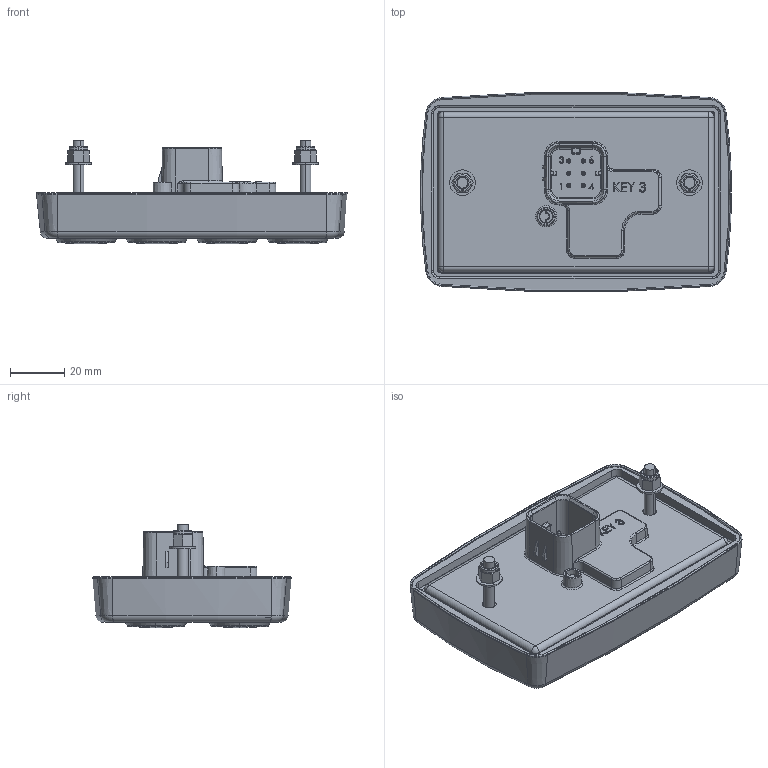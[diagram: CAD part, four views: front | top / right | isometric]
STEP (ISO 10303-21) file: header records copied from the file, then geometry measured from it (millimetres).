
FILE_DESCRIPTION (( 'STEP AP203' ), '1' );
FILE_NAME ('CL-614-500_WITH_PCB_OVERLAY_112613.STEP', '2014-05-27T20:40:35', ( '' ), ( '' ), 'SwSTEP 2.0', 'SolidWorks 2013', '' );
FILE_SCHEMA (( 'CONFIG_CONTROL_DESIGN' ));
Length unit declared in the file: inch
Products named in the file (1): CL-614-500_WITH_PCB_OVERLAY_112613
Bounding box: 114.81 x 73.42 x 38.25 mm (x, y, z)
Volume: 93631.8 mm3; surface area: 96532.7 mm2
Topology: 460 solids, 460 shells, 4836 faces, 10440 edges, 6724 vertices
Faces by surface type: plane 2846, cylinder 1370, bspline 201, cone 188, torus 187, sphere 44
Entity records: 135012 total; most frequent: CARTESIAN_POINT 28953, DIRECTION 22534, ORIENTED_EDGE 20860, EDGE_CURVE 10430, AXIS2_PLACEMENT_3D 7981, VERTEX_POINT 6724, LINE 6572, VECTOR 6572
